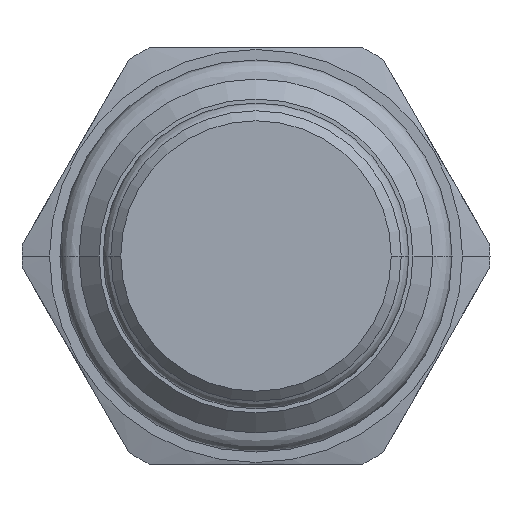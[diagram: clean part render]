
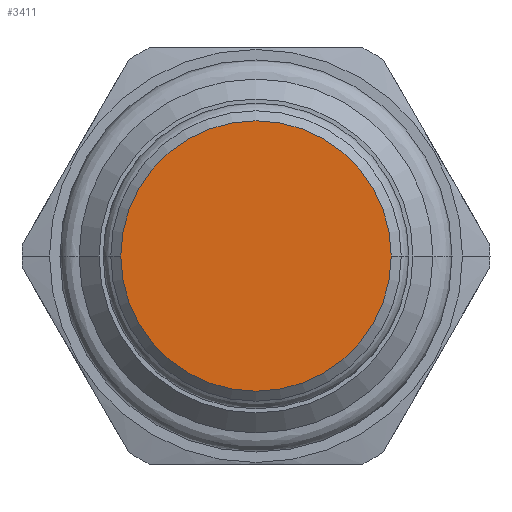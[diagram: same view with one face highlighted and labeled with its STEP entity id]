
A CAD part, front view. The second image highlights one B-rep face of the part: STEP entity #3411.
In plain terms, the highlighted planar face has unit normal (0, -1, 0).
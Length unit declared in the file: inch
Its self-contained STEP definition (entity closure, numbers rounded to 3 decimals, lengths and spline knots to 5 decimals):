
#1206=CARTESIAN_POINT('',(0.,-1.8125,0.));
#1207=DIRECTION('',(0.,-1.,0.));
#1208=DIRECTION('',(-1.,0.,0.));
#1209=AXIS2_PLACEMENT_3D('',#1206,#1207,#1208);
#1216=CARTESIAN_POINT('',(0.,-1.8125,0.));
#1217=DIRECTION('',(0.,-1.,0.));
#1218=DIRECTION('',(1.,0.,0.));
#1219=AXIS2_PLACEMENT_3D('',#1216,#1217,#1218);
#1607=CARTESIAN_POINT('',(-0.406,-1.8125,0.));
#1608=CARTESIAN_POINT('',(0.406,-1.8125,0.));
#1609=VERTEX_POINT('',#1607);
#1610=VERTEX_POINT('',#1608);
#3401=CARTESIAN_POINT('',(0.,-1.8125,0.));
#3402=DIRECTION('',(0.,-1.,0.));
#3403=DIRECTION('',(1.,0.,0.));
#3404=AXIS2_PLACEMENT_3D('',#3401,#3402,#3403);
#3405=PLANE('',#3404);
#3407=ORIENTED_EDGE('',*,*,#3406,.F.);
#3408=ORIENTED_EDGE('',*,*,#3391,.F.);
#3409=EDGE_LOOP('',(#3407,#3408));
#3410=FACE_OUTER_BOUND('',#3409,.F.);
#3411=ADVANCED_FACE('',(#3410),#3405,.T.);
#1210=CIRCLE('',#1209,0.406);
#1220=CIRCLE('',#1219,0.406);
#3391=EDGE_CURVE('',#1609,#1610,#1210,.T.);
#3406=EDGE_CURVE('',#1610,#1609,#1220,.T.);
